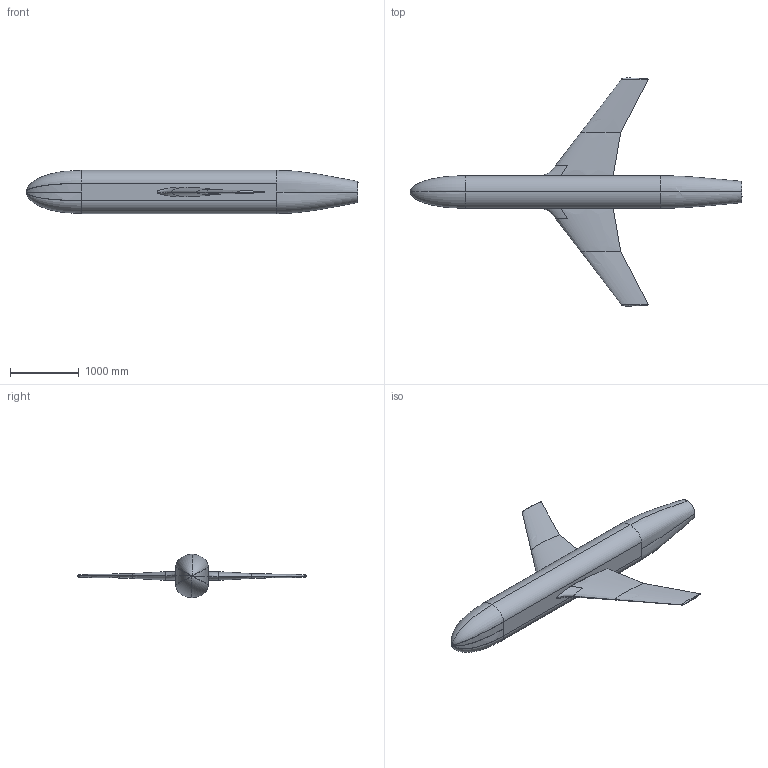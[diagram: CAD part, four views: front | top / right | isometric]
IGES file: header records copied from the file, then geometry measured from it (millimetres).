
Global section: file name: Z:\prj6.0\JFM_2018\outgoing\2022_scanned_data_JFM_0015_w_horn\2022 scans\model in tunnel at 0 deg mod\jfm_0015_based_wHorn_harrison_fuselage_2017_02_06_fullspan-0deg_in_tunnel_mod.igs; native system: NX V10.0; preprocessor: SIEMENS PLM Software NX 10.0; date: 20220822.141023; units: millimetre
Bounding box: 4839.26 x 3325.92 x 629.72 mm (x, y, z)
Surface area: 11766148.3 mm2 (no closed solid volume)
Topology: 0 solids, 0 shells, 41 faces, 281 edges, 273 vertices
Faces by surface type: bspline 41
